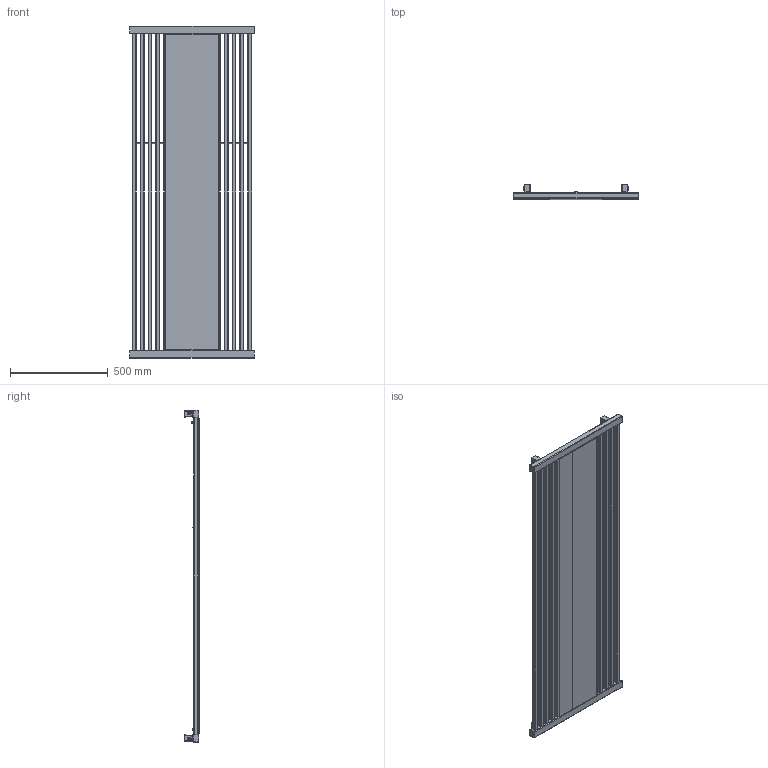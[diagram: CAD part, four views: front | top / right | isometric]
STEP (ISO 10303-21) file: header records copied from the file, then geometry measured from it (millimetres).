
FILE_DESCRIPTION((''),'2;1');
FILE_NAME('Z:\R\G\P\RGPH04 - Grzejnik Intra\Work\Inventor\Marketing\STEP\IN 17-64-ZX.stp','2012-07-25T14:38:29',('PioRo'),(''),'Autodesk Inventor 2012','Autodesk Inventor 2012','');
FILE_SCHEMA(('CONFIG_CONTROL_DESIGN'));
Length unit declared in the file: millimetre
Products named in the file (1): Część3
Bounding box: 640 x 74 x 1700 mm (x, y, z)
Volume: 13024066.7 mm3; surface area: 3193413.7 mm2
Topology: 11 solids, 37 shells, 784 faces, 1869 edges, 1194 vertices
Faces by surface type: plane 386, cylinder 280, bspline 72, cone 34, torus 12
Full cylindrical faces by diameter (mm): 4.134 x4, 5 x1, 6.912 x2, 8 x4, 9.5 x2, 10 x4, 11 x4, 11.1 x2, 12 x10, 13 x2, 18.631 x3
Entity records: 25947 total; most frequent: CARTESIAN_POINT 7235, DIRECTION 3652, ORIENTED_EDGE 3596, EDGE_CURVE 1798, AXIS2_PLACEMENT_3D 1309, VERTEX_POINT 1176, VECTOR 1034, LINE 1034
